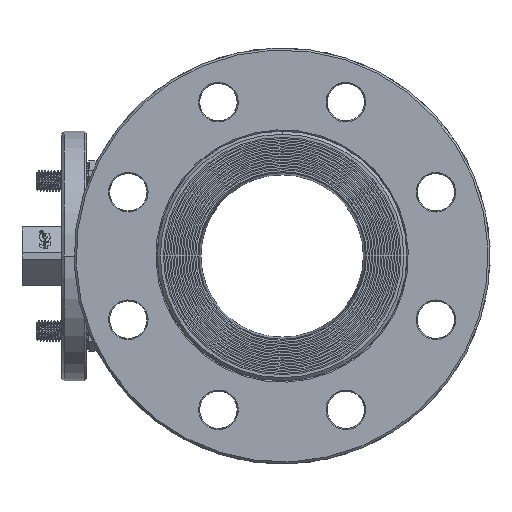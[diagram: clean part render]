
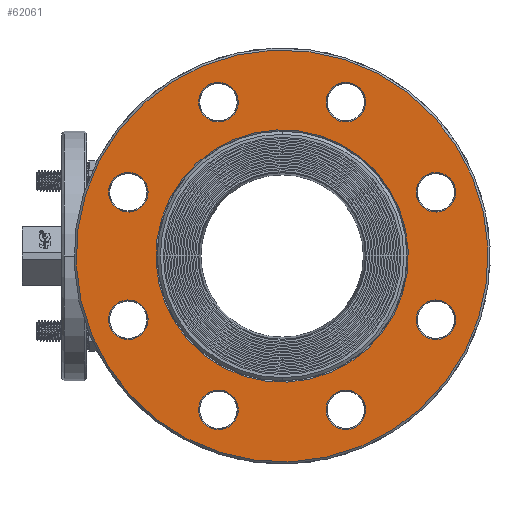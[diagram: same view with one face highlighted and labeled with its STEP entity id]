
A CAD part, left-side view. The second image highlights one B-rep face of the part: STEP entity #62061.
In plain terms, the highlighted planar face has unit normal (-1, 0, 0).
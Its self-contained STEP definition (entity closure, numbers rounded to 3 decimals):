
#4300=CARTESIAN_POINT('',(-88.,0.,0.));
#4301=DIRECTION('',(-1.,0.,0.));
#4302=DIRECTION('',(0.,-0.924,0.383));
#4303=AXIS2_PLACEMENT_3D('',#4300,#4301,#4302);
#4308=CARTESIAN_POINT('',(-88.,0.,0.));
#4309=DIRECTION('',(-1.,0.,0.));
#4310=DIRECTION('',(0.,0.924,-0.383));
#4311=AXIS2_PLACEMENT_3D('',#4308,#4309,#4310);
#4316=CARTESIAN_POINT('',(-88.,0.,0.));
#4317=DIRECTION('',(-1.,0.,0.));
#4318=DIRECTION('',(0.,-0.924,0.383));
#4319=AXIS2_PLACEMENT_3D('',#4316,#4317,#4318);
#4324=CARTESIAN_POINT('',(-88.,0.,0.));
#4325=DIRECTION('',(-1.,0.,0.));
#4326=DIRECTION('',(0.,0.924,-0.383));
#4327=AXIS2_PLACEMENT_3D('',#4324,#4325,#4326);
#4332=CARTESIAN_POINT('',(-88.,73.91,30.615));
#4333=DIRECTION('',(1.,0.,0.));
#4334=DIRECTION('',(0.,0.924,-0.383));
#4335=AXIS2_PLACEMENT_3D('',#4332,#4333,#4334);
#4340=CARTESIAN_POINT('',(-88.,73.91,30.615));
#4341=DIRECTION('',(1.,0.,0.));
#4342=DIRECTION('',(0.,-0.924,0.383));
#4343=AXIS2_PLACEMENT_3D('',#4340,#4341,#4342);
#4348=CARTESIAN_POINT('',(-88.,73.91,-30.615));
#4349=DIRECTION('',(1.,0.,0.));
#4350=DIRECTION('',(0.,0.924,-0.383));
#4351=AXIS2_PLACEMENT_3D('',#4348,#4349,#4350);
#4356=CARTESIAN_POINT('',(-88.,73.91,-30.615));
#4357=DIRECTION('',(1.,0.,0.));
#4358=DIRECTION('',(0.,-0.924,0.383));
#4359=AXIS2_PLACEMENT_3D('',#4356,#4357,#4358);
#4364=CARTESIAN_POINT('',(-88.,30.615,-73.91));
#4365=DIRECTION('',(1.,0.,0.));
#4366=DIRECTION('',(0.,0.924,-0.383));
#4367=AXIS2_PLACEMENT_3D('',#4364,#4365,#4366);
#4372=CARTESIAN_POINT('',(-88.,30.615,-73.91));
#4373=DIRECTION('',(1.,0.,0.));
#4374=DIRECTION('',(0.,-0.924,0.383));
#4375=AXIS2_PLACEMENT_3D('',#4372,#4373,#4374);
#4380=CARTESIAN_POINT('',(-88.,-30.615,-73.91));
#4381=DIRECTION('',(1.,0.,0.));
#4382=DIRECTION('',(0.,0.924,-0.383));
#4383=AXIS2_PLACEMENT_3D('',#4380,#4381,#4382);
#4388=CARTESIAN_POINT('',(-88.,-30.615,-73.91));
#4389=DIRECTION('',(1.,0.,0.));
#4390=DIRECTION('',(0.,-0.924,0.383));
#4391=AXIS2_PLACEMENT_3D('',#4388,#4389,#4390);
#4396=CARTESIAN_POINT('',(-88.,-73.91,-30.615));
#4397=DIRECTION('',(1.,0.,0.));
#4398=DIRECTION('',(0.,0.924,-0.383));
#4399=AXIS2_PLACEMENT_3D('',#4396,#4397,#4398);
#4404=CARTESIAN_POINT('',(-88.,-73.91,-30.615));
#4405=DIRECTION('',(1.,0.,0.));
#4406=DIRECTION('',(0.,-0.924,0.383));
#4407=AXIS2_PLACEMENT_3D('',#4404,#4405,#4406);
#4412=CARTESIAN_POINT('',(-88.,-73.91,30.615));
#4413=DIRECTION('',(1.,0.,0.));
#4414=DIRECTION('',(0.,0.924,-0.383));
#4415=AXIS2_PLACEMENT_3D('',#4412,#4413,#4414);
#4420=CARTESIAN_POINT('',(-88.,-73.91,30.615));
#4421=DIRECTION('',(1.,0.,0.));
#4422=DIRECTION('',(0.,-0.924,0.383));
#4423=AXIS2_PLACEMENT_3D('',#4420,#4421,#4422);
#4428=CARTESIAN_POINT('',(-88.,-30.615,73.91));
#4429=DIRECTION('',(1.,0.,0.));
#4430=DIRECTION('',(0.,0.924,-0.383));
#4431=AXIS2_PLACEMENT_3D('',#4428,#4429,#4430);
#4436=CARTESIAN_POINT('',(-88.,-30.615,73.91));
#4437=DIRECTION('',(1.,0.,0.));
#4438=DIRECTION('',(0.,-0.924,0.383));
#4439=AXIS2_PLACEMENT_3D('',#4436,#4437,#4438);
#4444=CARTESIAN_POINT('',(-88.,30.615,73.91));
#4445=DIRECTION('',(1.,0.,0.));
#4446=DIRECTION('',(0.,0.924,-0.383));
#4447=AXIS2_PLACEMENT_3D('',#4444,#4445,#4446);
#4452=CARTESIAN_POINT('',(-88.,30.615,73.91));
#4453=DIRECTION('',(1.,0.,0.));
#4454=DIRECTION('',(0.,-0.924,0.383));
#4455=AXIS2_PLACEMENT_3D('',#4452,#4453,#4454);
#55981=CARTESIAN_POINT('',(-88.,-56.033,23.21));
#55982=CARTESIAN_POINT('',(-88.,56.033,-23.21));
#55983=VERTEX_POINT('',#55981);
#55984=VERTEX_POINT('',#55982);
#56001=CARTESIAN_POINT('',(-88.,-91.464,37.886));
#56002=CARTESIAN_POINT('',(-88.,91.464,-37.886));
#56003=VERTEX_POINT('',#56001);
#56004=VERTEX_POINT('',#56002);
#56073=CARTESIAN_POINT('',(-88.,82.687,26.979));
#56074=CARTESIAN_POINT('',(-88.,65.134,34.25));
#56075=VERTEX_POINT('',#56073);
#56076=VERTEX_POINT('',#56074);
#56081=CARTESIAN_POINT('',(-88.,82.687,-34.25));
#56082=CARTESIAN_POINT('',(-88.,65.134,-26.979));
#56083=VERTEX_POINT('',#56081);
#56084=VERTEX_POINT('',#56082);
#56089=CARTESIAN_POINT('',(-88.,39.391,-77.546));
#56090=CARTESIAN_POINT('',(-88.,21.838,-70.275));
#56091=VERTEX_POINT('',#56089);
#56092=VERTEX_POINT('',#56090);
#56097=CARTESIAN_POINT('',(-88.,-21.838,-77.546));
#56098=CARTESIAN_POINT('',(-88.,-39.391,-70.275));
#56099=VERTEX_POINT('',#56097);
#56100=VERTEX_POINT('',#56098);
#56105=CARTESIAN_POINT('',(-88.,-65.134,-34.25));
#56106=CARTESIAN_POINT('',(-88.,-82.687,-26.979));
#56107=VERTEX_POINT('',#56105);
#56108=VERTEX_POINT('',#56106);
#56113=CARTESIAN_POINT('',(-88.,-65.134,26.979));
#56114=CARTESIAN_POINT('',(-88.,-82.687,34.25));
#56115=VERTEX_POINT('',#56113);
#56116=VERTEX_POINT('',#56114);
#56121=CARTESIAN_POINT('',(-88.,-21.838,70.275));
#56122=CARTESIAN_POINT('',(-88.,-39.391,77.546));
#56123=VERTEX_POINT('',#56121);
#56124=VERTEX_POINT('',#56122);
#56129=CARTESIAN_POINT('',(-88.,39.391,70.275));
#56130=CARTESIAN_POINT('',(-88.,21.838,77.546));
#56131=VERTEX_POINT('',#56129);
#56132=VERTEX_POINT('',#56130);
#61998=CARTESIAN_POINT('',(-88.,0.,0.));
#61999=DIRECTION('',(-1.,0.,0.));
#62000=DIRECTION('',(0.,0.924,-0.383));
#62001=AXIS2_PLACEMENT_3D('',#61998,#61999,#62000);
#62002=PLANE('',#62001);
#62004=ORIENTED_EDGE('',*,*,#62003,.F.);
#62006=ORIENTED_EDGE('',*,*,#62005,.F.);
#62007=EDGE_LOOP('',(#62004,#62006));
#62008=FACE_OUTER_BOUND('',#62007,.F.);
#62009=ORIENTED_EDGE('',*,*,#61992,.T.);
#62010=ORIENTED_EDGE('',*,*,#61962,.T.);
#62011=EDGE_LOOP('',(#62009,#62010));
#62012=FACE_BOUND('',#62011,.F.);
#62014=ORIENTED_EDGE('',*,*,#62013,.F.);
#62016=ORIENTED_EDGE('',*,*,#62015,.F.);
#62017=EDGE_LOOP('',(#62014,#62016));
#62018=FACE_BOUND('',#62017,.F.);
#62020=ORIENTED_EDGE('',*,*,#62019,.F.);
#62022=ORIENTED_EDGE('',*,*,#62021,.F.);
#62023=EDGE_LOOP('',(#62020,#62022));
#62024=FACE_BOUND('',#62023,.F.);
#62026=ORIENTED_EDGE('',*,*,#62025,.F.);
#62028=ORIENTED_EDGE('',*,*,#62027,.F.);
#62029=EDGE_LOOP('',(#62026,#62028));
#62030=FACE_BOUND('',#62029,.F.);
#62032=ORIENTED_EDGE('',*,*,#62031,.F.);
#62034=ORIENTED_EDGE('',*,*,#62033,.F.);
#62035=EDGE_LOOP('',(#62032,#62034));
#62036=FACE_BOUND('',#62035,.F.);
#62038=ORIENTED_EDGE('',*,*,#62037,.F.);
#62040=ORIENTED_EDGE('',*,*,#62039,.F.);
#62041=EDGE_LOOP('',(#62038,#62040));
#62042=FACE_BOUND('',#62041,.F.);
#62044=ORIENTED_EDGE('',*,*,#62043,.F.);
#62046=ORIENTED_EDGE('',*,*,#62045,.F.);
#62047=EDGE_LOOP('',(#62044,#62046));
#62048=FACE_BOUND('',#62047,.F.);
#62050=ORIENTED_EDGE('',*,*,#62049,.F.);
#62052=ORIENTED_EDGE('',*,*,#62051,.F.);
#62053=EDGE_LOOP('',(#62050,#62052));
#62054=FACE_BOUND('',#62053,.F.);
#62056=ORIENTED_EDGE('',*,*,#62055,.F.);
#62058=ORIENTED_EDGE('',*,*,#62057,.F.);
#62059=EDGE_LOOP('',(#62056,#62058));
#62060=FACE_BOUND('',#62059,.F.);
#62061=ADVANCED_FACE('',(#62008,#62012,#62018,#62024,#62030,#62036,#62042,
#62048,#62054,#62060),#62002,.T.);
#4304=CIRCLE('',#4303,99.);
#4312=CIRCLE('',#4311,99.);
#4320=CIRCLE('',#4319,60.65);
#4328=CIRCLE('',#4327,60.65);
#4336=CIRCLE('',#4335,9.5);
#4344=CIRCLE('',#4343,9.5);
#4352=CIRCLE('',#4351,9.5);
#4360=CIRCLE('',#4359,9.5);
#4368=CIRCLE('',#4367,9.5);
#4376=CIRCLE('',#4375,9.5);
#4384=CIRCLE('',#4383,9.5);
#4392=CIRCLE('',#4391,9.5);
#4400=CIRCLE('',#4399,9.5);
#4408=CIRCLE('',#4407,9.5);
#4416=CIRCLE('',#4415,9.5);
#4424=CIRCLE('',#4423,9.5);
#4432=CIRCLE('',#4431,9.5);
#4440=CIRCLE('',#4439,9.5);
#4448=CIRCLE('',#4447,9.5);
#4456=CIRCLE('',#4455,9.5);
#61962=EDGE_CURVE('',#55984,#55983,#4328,.T.);
#61992=EDGE_CURVE('',#55983,#55984,#4320,.T.);
#62003=EDGE_CURVE('',#56003,#56004,#4304,.T.);
#62005=EDGE_CURVE('',#56004,#56003,#4312,.T.);
#62013=EDGE_CURVE('',#56075,#56076,#4336,.T.);
#62015=EDGE_CURVE('',#56076,#56075,#4344,.T.);
#62019=EDGE_CURVE('',#56083,#56084,#4352,.T.);
#62021=EDGE_CURVE('',#56084,#56083,#4360,.T.);
#62025=EDGE_CURVE('',#56091,#56092,#4368,.T.);
#62027=EDGE_CURVE('',#56092,#56091,#4376,.T.);
#62031=EDGE_CURVE('',#56099,#56100,#4384,.T.);
#62033=EDGE_CURVE('',#56100,#56099,#4392,.T.);
#62037=EDGE_CURVE('',#56107,#56108,#4400,.T.);
#62039=EDGE_CURVE('',#56108,#56107,#4408,.T.);
#62043=EDGE_CURVE('',#56115,#56116,#4416,.T.);
#62045=EDGE_CURVE('',#56116,#56115,#4424,.T.);
#62049=EDGE_CURVE('',#56123,#56124,#4432,.T.);
#62051=EDGE_CURVE('',#56124,#56123,#4440,.T.);
#62055=EDGE_CURVE('',#56131,#56132,#4448,.T.);
#62057=EDGE_CURVE('',#56132,#56131,#4456,.T.);
